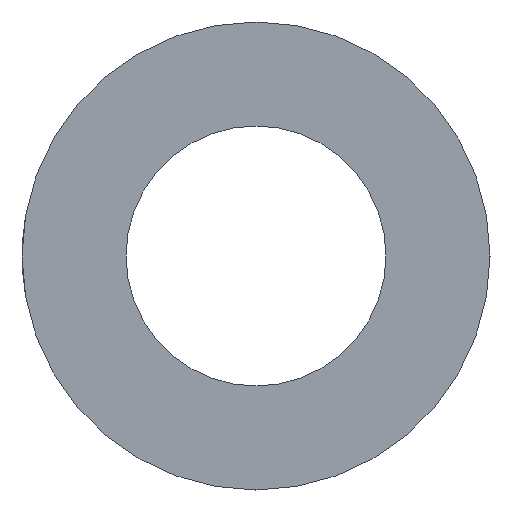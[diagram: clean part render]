
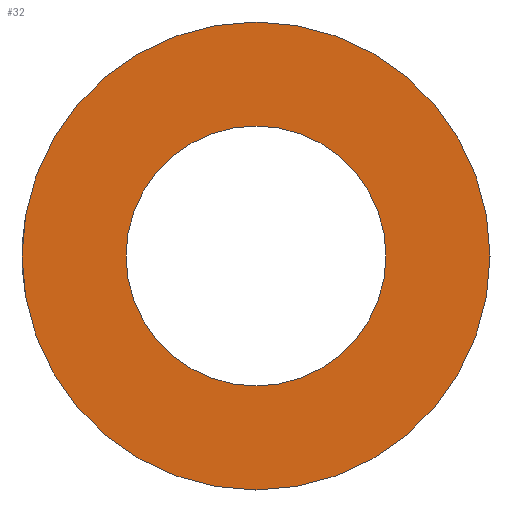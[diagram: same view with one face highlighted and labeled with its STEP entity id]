
A CAD part, left-side view. The second image highlights one B-rep face of the part: STEP entity #32.
In plain terms, the highlighted planar face has unit normal (-1, 0, 0).
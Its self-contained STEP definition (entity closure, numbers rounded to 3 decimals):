
#9 = EDGE_CURVE ( 'NONE', #62, #616, #137, .T. ) ;
#32 = ADVANCED_FACE ( 'NONE', ( #416, #417 ), #418, .F. ) ;
#45 = VERTEX_POINT ( 'NONE', #483 ) ;
#52 = EDGE_LOOP ( 'NONE', ( #70, #630 ) ) ;
#62 = VERTEX_POINT ( 'NONE', #241 ) ;
#63 = EDGE_CURVE ( 'NONE', #607, #45, #248, .T. ) ;
#64 = EDGE_CURVE ( 'NONE', #45, #607, #272, .T. ) ;
#70 = ORIENTED_EDGE ( 'NONE', *, *, #64, .T. ) ;
#73 = ORIENTED_EDGE ( 'NONE', *, *, #9, .F. ) ;
#122 = CARTESIAN_POINT ( 'NONE',  ( 0., 0., -36. ) ) ;
#137 = CIRCLE ( 'NONE', #138, 20. ) ;
#138 = AXIS2_PLACEMENT_3D ( 'NONE', #139, #140, #141 ) ;
#139 = CARTESIAN_POINT ( 'NONE',  ( 0., 0., 0. ) ) ;
#140 = DIRECTION ( 'NONE',  ( -1., 0., 0. ) ) ;
#141 = DIRECTION ( 'NONE',  ( 0., 0., 1. ) ) ;
#241 = CARTESIAN_POINT ( 'NONE',  ( 0., 0., -20. ) ) ;
#248 = CIRCLE ( 'NONE', #249, 36. ) ;
#249 = AXIS2_PLACEMENT_3D ( 'NONE', #250, #251, #252 ) ;
#250 = CARTESIAN_POINT ( 'NONE',  ( 0., 0., 0. ) ) ;
#251 = DIRECTION ( 'NONE',  ( -1., 0., 0. ) ) ;
#252 = DIRECTION ( 'NONE',  ( 0., 0., 1. ) ) ;
#263 = CARTESIAN_POINT ( 'NONE',  ( 0., 0., 20. ) ) ;
#272 = CIRCLE ( 'NONE', #273, 36. ) ;
#273 = AXIS2_PLACEMENT_3D ( 'NONE', #274, #276, #277 ) ;
#274 = CARTESIAN_POINT ( 'NONE',  ( 0., 0., 0. ) ) ;
#276 = DIRECTION ( 'NONE',  ( -1., 0., 0. ) ) ;
#277 = DIRECTION ( 'NONE',  ( 0., 0., 1. ) ) ;
#289 = CIRCLE ( 'NONE', #290, 20. ) ;
#290 = AXIS2_PLACEMENT_3D ( 'NONE', #291, #293, #294 ) ;
#291 = CARTESIAN_POINT ( 'NONE',  ( 0., 0., 0. ) ) ;
#293 = DIRECTION ( 'NONE',  ( -1., 0., 0. ) ) ;
#294 = DIRECTION ( 'NONE',  ( 0., 0., 1. ) ) ;
#416 = FACE_BOUND ( 'NONE', #640, .T. ) ;
#417 = FACE_OUTER_BOUND ( 'NONE', #52, .T. ) ;
#418 = PLANE ( 'NONE',  #419 ) ;
#419 = AXIS2_PLACEMENT_3D ( 'NONE', #420, #421, #422 ) ;
#420 = CARTESIAN_POINT ( 'NONE',  ( 0., 0., -36. ) ) ;
#421 = DIRECTION ( 'NONE',  ( 1., 0., 0. ) ) ;
#422 = DIRECTION ( 'NONE',  ( 0., 0., -1. ) ) ;
#483 = CARTESIAN_POINT ( 'NONE',  ( 0., 0., 36. ) ) ;
#497 = EDGE_CURVE ( 'NONE', #616, #62, #289, .T. ) ;
#602 = ORIENTED_EDGE ( 'NONE', *, *, #497, .F. ) ;
#607 = VERTEX_POINT ( 'NONE', #122 ) ;
#616 = VERTEX_POINT ( 'NONE', #263 ) ;
#630 = ORIENTED_EDGE ( 'NONE', *, *, #63, .T. ) ;
#640 = EDGE_LOOP ( 'NONE', ( #602, #73 ) ) ;
